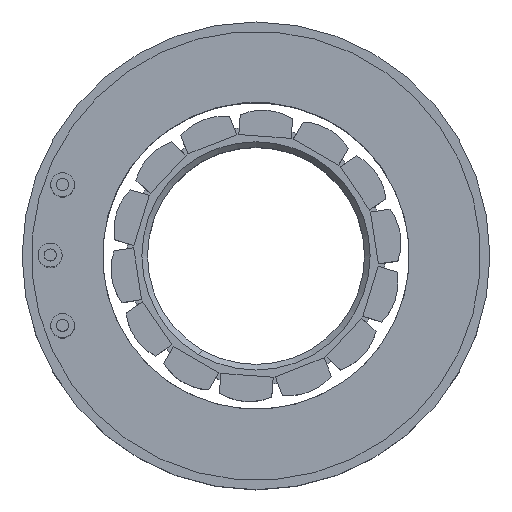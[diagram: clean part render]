
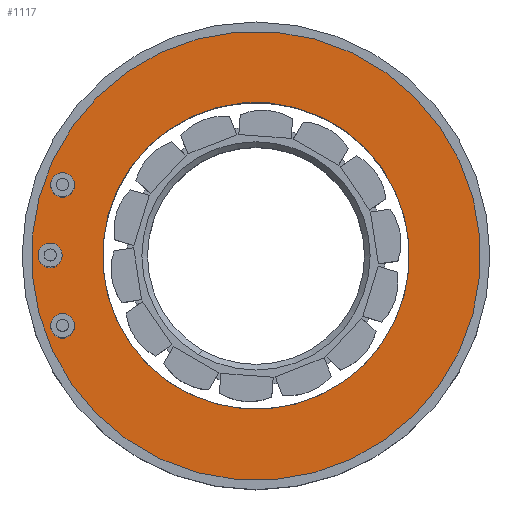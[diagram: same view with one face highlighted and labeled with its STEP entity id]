
A CAD part, top view. The second image highlights one B-rep face of the part: STEP entity #1117.
In plain terms, the highlighted planar face has unit normal (0, 0, 1).
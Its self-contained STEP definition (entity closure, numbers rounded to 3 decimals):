
#67 = CIRCLE ( 'NONE', #4536, 12. ) ;
#179 = EDGE_CURVE ( 'NONE', #4097, #786, #750, .T. ) ;
#439 = EDGE_CURVE ( 'NONE', #2728, #4918, #4729, .T. ) ;
#599 = CARTESIAN_POINT ( 'NONE',  ( 0., 0., 9. ) ) ;
#658 = AXIS2_PLACEMENT_3D ( 'NONE', #2482, #5527, #3354 ) ;
#750 = CIRCLE ( 'NONE', #4400, 8.2 ) ;
#763 = EDGE_LOOP ( 'NONE', ( #5242, #1483 ) ) ;
#786 = VERTEX_POINT ( 'NONE', #792 ) ;
#792 = CARTESIAN_POINT ( 'NONE',  ( 7.923, 2.115, 9. ) ) ;
#795 = CARTESIAN_POINT ( 'NONE',  ( -7.923, -2.115, 9. ) ) ;
#1003 = DIRECTION ( 'NONE',  ( 0.966, 0.258, 0. ) ) ;
#1091 = CARTESIAN_POINT ( 'NONE',  ( 11.594, 3.094, 9. ) ) ;
#1106 = PLANE ( 'NONE',  #658 ) ;
#1117 = ADVANCED_FACE ( 'NONE', ( #1142, #3807 ), #1106, .T. ) ;
#1142 = FACE_OUTER_BOUND ( 'NONE', #763, .T. ) ;
#1367 = CARTESIAN_POINT ( 'NONE',  ( -11.594, -3.094, 9. ) ) ;
#1376 = DIRECTION ( 'NONE',  ( 0., 0., 1. ) ) ;
#1483 = ORIENTED_EDGE ( 'NONE', *, *, #4460, .T. ) ;
#2351 = DIRECTION ( 'NONE',  ( 0., 0., 1. ) ) ;
#2430 = ORIENTED_EDGE ( 'NONE', *, *, #179, .F. ) ;
#2482 = CARTESIAN_POINT ( 'NONE',  ( 0., 0., 9. ) ) ;
#2606 = DIRECTION ( 'NONE',  ( 0.966, 0.258, 0. ) ) ;
#2728 = VERTEX_POINT ( 'NONE', #1367 ) ;
#2991 = ORIENTED_EDGE ( 'NONE', *, *, #3502, .F. ) ;
#3012 = EDGE_LOOP ( 'NONE', ( #2430, #2991 ) ) ;
#3031 = DIRECTION ( 'NONE',  ( 0., 0., 1. ) ) ;
#3335 = DIRECTION ( 'NONE',  ( 0., 0., 1. ) ) ;
#3354 = DIRECTION ( 'NONE',  ( 0.966, 0.258, 0. ) ) ;
#3502 = EDGE_CURVE ( 'NONE', #786, #4097, #4785, .T. ) ;
#3565 = AXIS2_PLACEMENT_3D ( 'NONE', #4600, #3335, #5055 ) ;
#3627 = AXIS2_PLACEMENT_3D ( 'NONE', #5279, #3031, #4739 ) ;
#3807 = FACE_BOUND ( 'NONE', #3012, .T. ) ;
#4097 = VERTEX_POINT ( 'NONE', #795 ) ;
#4400 = AXIS2_PLACEMENT_3D ( 'NONE', #599, #2351, #1003 ) ;
#4460 = EDGE_CURVE ( 'NONE', #4918, #2728, #67, .T. ) ;
#4536 = AXIS2_PLACEMENT_3D ( 'NONE', #4800, #1376, #2606 ) ;
#4600 = CARTESIAN_POINT ( 'NONE',  ( 0., 0., 9. ) ) ;
#4729 = CIRCLE ( 'NONE', #3565, 12. ) ;
#4739 = DIRECTION ( 'NONE',  ( 0.966, 0.258, 0. ) ) ;
#4785 = CIRCLE ( 'NONE', #3627, 8.2 ) ;
#4800 = CARTESIAN_POINT ( 'NONE',  ( 0., 0., 9. ) ) ;
#4918 = VERTEX_POINT ( 'NONE', #1091 ) ;
#5055 = DIRECTION ( 'NONE',  ( 0.966, 0.258, 0. ) ) ;
#5242 = ORIENTED_EDGE ( 'NONE', *, *, #439, .T. ) ;
#5279 = CARTESIAN_POINT ( 'NONE',  ( 0., 0., 9. ) ) ;
#5527 = DIRECTION ( 'NONE',  ( 0., 0., 1. ) ) ;
